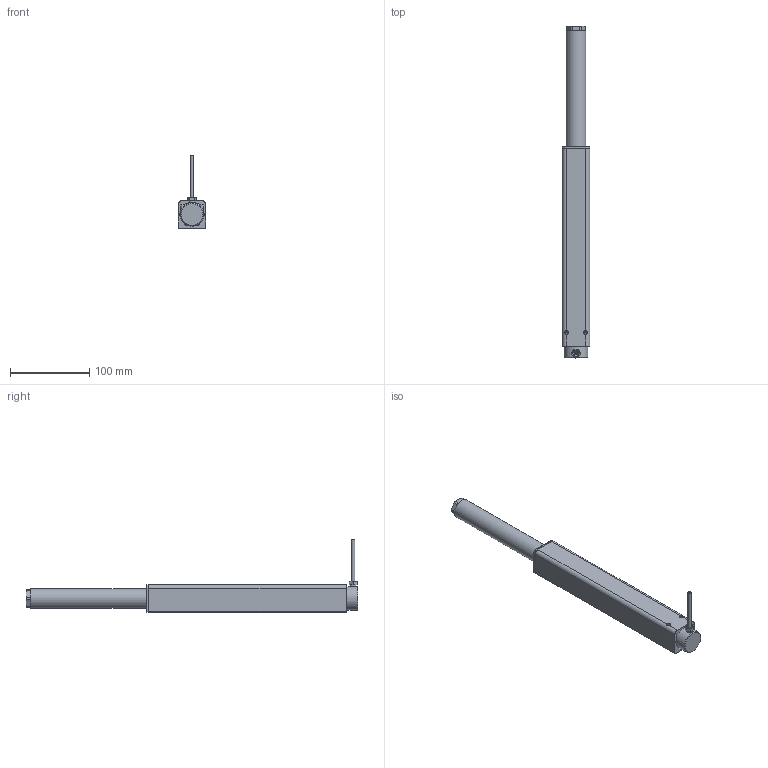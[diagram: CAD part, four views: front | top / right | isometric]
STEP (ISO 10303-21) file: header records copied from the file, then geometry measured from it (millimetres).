
FILE_DESCRIPTION(/* description */ ('Unknown'),/* implementation_level */ '2;1');
FILE_NAME(/* name */ '106.20181 Lineareinheit LA 1815 R_ausgefahren',/* time_stamp */ '2017-10-06T10:21:02+02:00',/* author */ ('Unknown'),/* organization */ ('Unknown'),/* preprocessor_version */ 'ST-DEVELOPER v16.7',/* originating_system */ 'DEX',/* authorisation */ $);
FILE_SCHEMA (('AUTOMOTIVE_DESIGN {1 0 10303 214 3 1 1}'));
Products named in the file (11): 106.20181; 119.00001; 142.00014; 142.00021; 125.00021; 115.00008; 125.00062; 122.00018; 125.00051; 123.00001; 113.00002_70mm
Assembly tree (11 placements, depth 2):
  106.20181
    119.00001
    142.00014  x2
    142.00021
    125.00021
    115.00008
    125.00062
    122.00018
    125.00051
    123.00001
    113.00002_70mm
Bounding box: 35 x 419 x 91.75 mm (x, y, z)
Volume: 215130.1 mm3; surface area: 137581.1 mm2
Topology: 10 solids, 10 shells, 810 faces, 1896 edges, 1132 vertices
Faces by surface type: cylinder 280, bspline 224, plane 216, cone 48, torus 29, sphere 13
Full cylindrical faces by diameter (mm): 2.2 x1, 3.5 x2, 4 x7, 4.1 x1, 4.134 x4, 4.2 x1, 6.647 x1, 6.917 x2, 8 x2, 8.376 x1, 14.4 x1, 17.3 x1, 17.9 x2, 19 x2, 20.8 x3, 21 x1, 25 x1, 29.5 x2, 30.63 x1
Entity records: 76038 total; most frequent: CARTESIAN_POINT 59373, ORIENTED_EDGE 3508, DIRECTION 2685, EDGE_CURVE 1754, VERTEX_POINT 1077, AXIS2_PLACEMENT_3D 1045, FACE_BOUND 921, EDGE_LOOP 919
